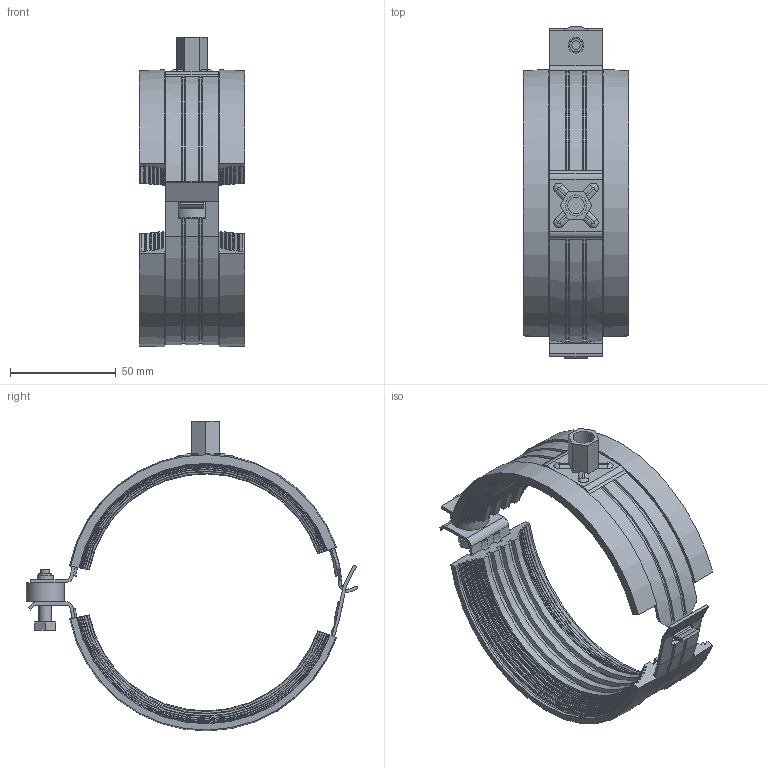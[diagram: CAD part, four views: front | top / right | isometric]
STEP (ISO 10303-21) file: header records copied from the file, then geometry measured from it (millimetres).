
FILE_DESCRIPTION(/* description */ (''),/* implementation_level */ '2;1');
FILE_NAME(/* name */ 'H:\Geberit-Teile\Export\Rohrschelle Si\stp\393599.stp',/* time_stamp */ '2017-02-14T11:12:04+01:00',/* author */ ('seihe2'),/* organization */ (''),/* preprocessor_version */ 'ST-DEVELOPER v15.2',/* originating_system */ 'Autodesk Inventor 2014',/* authorisation */ '');
FILE_SCHEMA (('AUTOMOTIVE_DESIGN { 1 0 10303 214 3 1 1 }'));
Length unit declared in the file: millimetre
Products named in the file (1): 393599
Bounding box: 50 x 157.16 x 146.69 mm (x, y, z)
Volume: 109235.9 mm3; surface area: 62795.7 mm2
Topology: 1 solids, 1 shells, 338 faces, 968 edges, 622 vertices
Faces by surface type: plane 96, cylinder 90, cone 84, torus 50, bspline 18
Full cylindrical faces by diameter (mm): 4 x1, 6 x2, 7.5 x1, 8 x1, 10 x1, 18.16 x1
Entity records: 11704 total; most frequent: CARTESIAN_POINT 2204, DIRECTION 2025, ORIENTED_EDGE 1928, EDGE_CURVE 961, AXIS2_PLACEMENT_3D 761, VERTEX_POINT 620, LINE 503, VECTOR 503
